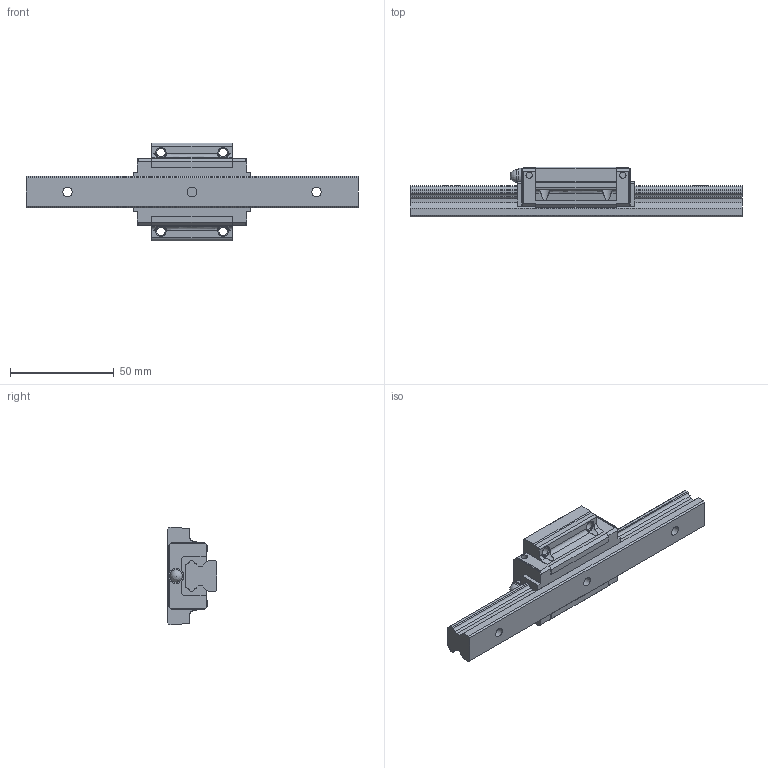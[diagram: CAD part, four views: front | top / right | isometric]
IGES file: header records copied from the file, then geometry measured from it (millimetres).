
Start section: Data from Parasolid IGES Translator 26.0.171, Copyright(c) 2006 Siemens PLM Software. All Rights Reserved.
Global section: file name: HSR15M2A1SS-160L_G20_0_PB1021B_51-7_0_0_0.igs; native system: By Siemens PLM Incorporated; preprocessor: XPlus GENERIC/IGES 26.0.171; author: Noname; organization: Noname; date: 20240523.085534; units: millimetre
Bounding box: 160 x 24 x 47 mm (x, y, z)
Surface area: 21113.1 mm2 (no closed solid volume)
Topology: 0 solids, 0 shells, 204 faces, 1087 edges, 1037 vertices
Faces by surface type: extrusion 146, revolution 58
